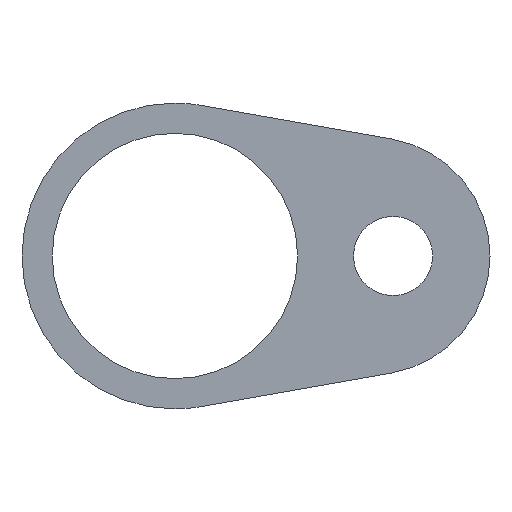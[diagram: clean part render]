
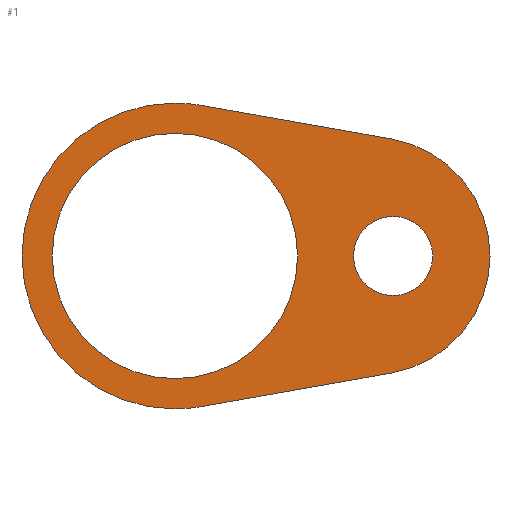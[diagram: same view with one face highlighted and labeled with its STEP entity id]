
A CAD part, front view. The second image highlights one B-rep face of the part: STEP entity #1.
In plain terms, the highlighted planar face has unit normal (0, -1, 0).
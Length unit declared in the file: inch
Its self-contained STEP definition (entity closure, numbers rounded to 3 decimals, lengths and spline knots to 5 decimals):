
#1 = ADVANCED_FACE ( 'NONE', ( #118, #112, #136 ), #238, .F. ) ;
#13 = ORIENTED_EDGE ( 'NONE', *, *, #187, .T. ) ;
#14 = ORIENTED_EDGE ( 'NONE', *, *, #186, .T. ) ;
#15 = ORIENTED_EDGE ( 'NONE', *, *, #173, .F. ) ;
#16 = ORIENTED_EDGE ( 'NONE', *, *, #197, .F. ) ;
#17 = ORIENTED_EDGE ( 'NONE', *, *, #174, .F. ) ;
#18 = ORIENTED_EDGE ( 'NONE', *, *, #178, .F. ) ;
#19 = ORIENTED_EDGE ( 'NONE', *, *, #172, .F. ) ;
#20 = ORIENTED_EDGE ( 'NONE', *, *, #177, .F. ) ;
#21 = ORIENTED_EDGE ( 'NONE', *, *, #185, .T. ) ;
#22 = ORIENTED_EDGE ( 'NONE', *, *, #182, .T. ) ;
#83 = CIRCLE ( 'NONE', #157, 0.785 ) ;
#86 = CIRCLE ( 'NONE', #205, 0.62992 ) ;
#88 = CIRCLE ( 'NONE', #202, 0.62992 ) ;
#89 = CIRCLE ( 'NONE', #156, 0.203 ) ;
#94 = CIRCLE ( 'NONE', #204, 0.203 ) ;
#95 = CIRCLE ( 'NONE', #201, 0.61 ) ;
#96 = CIRCLE ( 'NONE', #200, 0.785 ) ;
#105 = CIRCLE ( 'NONE', #154, 0.785 ) ;
#106 = LINE ( 'NONE', #254, #108 ) ;
#108 = VECTOR ( 'NONE', #263, 39.37008 ) ;
#112 = FACE_OUTER_BOUND ( 'NONE', #146, .T. ) ;
#118 = FACE_BOUND ( 'NONE', #153, .T. ) ;
#136 = FACE_BOUND ( 'NONE', #141, .T. ) ;
#141 = EDGE_LOOP ( 'NONE', ( #21, #22 ) ) ;
#146 = EDGE_LOOP ( 'NONE', ( #15, #16, #17, #18, #19, #20 ) ) ;
#149 = LINE ( 'NONE', #337, #223 ) ;
#153 = EDGE_LOOP ( 'NONE', ( #13, #14 ) ) ;
#154 = AXIS2_PLACEMENT_3D ( 'NONE', #259, #261, #262 ) ;
#156 = AXIS2_PLACEMENT_3D ( 'NONE', #345, #386, #389 ) ;
#157 = AXIS2_PLACEMENT_3D ( 'NONE', #317, #252, #248 ) ;
#167 = AXIS2_PLACEMENT_3D ( 'NONE', #234, #282, #283 ) ;
#172 = EDGE_CURVE ( 'NONE', #230, #246, #96, .T. ) ;
#173 = EDGE_CURVE ( 'NONE', #277, #250, #83, .T. ) ;
#174 = EDGE_CURVE ( 'NONE', #318, #295, #95, .T. ) ;
#177 = EDGE_CURVE ( 'NONE', #250, #230, #105, .T. ) ;
#178 = EDGE_CURVE ( 'NONE', #246, #318, #106, .T. ) ;
#182 = EDGE_CURVE ( 'NONE', #232, #235, #94, .T. ) ;
#185 = EDGE_CURVE ( 'NONE', #235, #232, #89, .T. ) ;
#186 = EDGE_CURVE ( 'NONE', #243, #231, #88, .T. ) ;
#187 = EDGE_CURVE ( 'NONE', #231, #243, #86, .T. ) ;
#197 = EDGE_CURVE ( 'NONE', #295, #277, #149, .T. ) ;
#200 = AXIS2_PLACEMENT_3D ( 'NONE', #303, #297, #296 ) ;
#201 = AXIS2_PLACEMENT_3D ( 'NONE', #251, #255, #253 ) ;
#202 = AXIS2_PLACEMENT_3D ( 'NONE', #373, #420, #354 ) ;
#204 = AXIS2_PLACEMENT_3D ( 'NONE', #266, #366, #376 ) ;
#205 = AXIS2_PLACEMENT_3D ( 'NONE', #358, #397, #364 ) ;
#223 = VECTOR ( 'NONE', #336, 39.37008 ) ;
#230 = VERTEX_POINT ( 'NONE', #333 ) ;
#231 = VERTEX_POINT ( 'NONE', #330 ) ;
#232 = VERTEX_POINT ( 'NONE', #332 ) ;
#234 = CARTESIAN_POINT ( 'NONE',  ( 0., 0., 0. ) ) ;
#235 = VERTEX_POINT ( 'NONE', #329 ) ;
#238 = PLANE ( 'NONE',  #167 ) ;
#243 = VERTEX_POINT ( 'NONE', #417 ) ;
#246 = VERTEX_POINT ( 'NONE', #415 ) ;
#248 = DIRECTION ( 'NONE',  ( 0., 0., 1. ) ) ;
#250 = VERTEX_POINT ( 'NONE', #413 ) ;
#251 = CARTESIAN_POINT ( 'NONE',  ( 1.00778, 0., 0. ) ) ;
#252 = DIRECTION ( 'NONE',  ( 0., 1., 0. ) ) ;
#253 = DIRECTION ( 'NONE',  ( 0., 0., 1. ) ) ;
#254 = CARTESIAN_POINT ( 'NONE',  ( 0.13631, 0., 0.77307 ) ) ;
#255 = DIRECTION ( 'NONE',  ( 0., 1., 0. ) ) ;
#259 = CARTESIAN_POINT ( 'NONE',  ( 0., 0., 0. ) ) ;
#261 = DIRECTION ( 'NONE',  ( 0., 1., 0. ) ) ;
#262 = DIRECTION ( 'NONE',  ( 0., 0., 1. ) ) ;
#263 = DIRECTION ( 'NONE',  ( 0.985, 0., -0.174 ) ) ;
#266 = CARTESIAN_POINT ( 'NONE',  ( 1.12, 0., 0. ) ) ;
#277 = VERTEX_POINT ( 'NONE', #411 ) ;
#282 = DIRECTION ( 'NONE',  ( 0., 1., 0. ) ) ;
#283 = DIRECTION ( 'NONE',  ( 0., 0., 1. ) ) ;
#295 = VERTEX_POINT ( 'NONE', #409 ) ;
#296 = DIRECTION ( 'NONE',  ( 0., 0., 1. ) ) ;
#297 = DIRECTION ( 'NONE',  ( 0., 1., 0. ) ) ;
#303 = CARTESIAN_POINT ( 'NONE',  ( 0., 0., 0. ) ) ;
#317 = CARTESIAN_POINT ( 'NONE',  ( 0., 0., 0. ) ) ;
#318 = VERTEX_POINT ( 'NONE', #408 ) ;
#329 = CARTESIAN_POINT ( 'NONE',  ( 1.12, 0., -0.203 ) ) ;
#330 = CARTESIAN_POINT ( 'NONE',  ( 0., 0., -0.62992 ) ) ;
#332 = CARTESIAN_POINT ( 'NONE',  ( 1.12, 0., 0.203 ) ) ;
#333 = CARTESIAN_POINT ( 'NONE',  ( 0., 0., 0.785 ) ) ;
#336 = DIRECTION ( 'NONE',  ( -0.985, 0., -0.174 ) ) ;
#337 = CARTESIAN_POINT ( 'NONE',  ( 0.13631, 0., -0.77307 ) ) ;
#345 = CARTESIAN_POINT ( 'NONE',  ( 1.12, 0., 0. ) ) ;
#354 = DIRECTION ( 'NONE',  ( 0., 0., 1. ) ) ;
#358 = CARTESIAN_POINT ( 'NONE',  ( 0., 0., 0. ) ) ;
#364 = DIRECTION ( 'NONE',  ( 0., 0., 1. ) ) ;
#366 = DIRECTION ( 'NONE',  ( 0., 1., 0. ) ) ;
#373 = CARTESIAN_POINT ( 'NONE',  ( 0., 0., 0. ) ) ;
#376 = DIRECTION ( 'NONE',  ( 0., 0., 1. ) ) ;
#386 = DIRECTION ( 'NONE',  ( 0., 1., 0. ) ) ;
#389 = DIRECTION ( 'NONE',  ( 0., 0., 1. ) ) ;
#397 = DIRECTION ( 'NONE',  ( 0., 1., 0. ) ) ;
#408 = CARTESIAN_POINT ( 'NONE',  ( 1.11371, 0., 0.60073 ) ) ;
#409 = CARTESIAN_POINT ( 'NONE',  ( 1.11371, 0., -0.60073 ) ) ;
#411 = CARTESIAN_POINT ( 'NONE',  ( 0.13631, 0., -0.77307 ) ) ;
#413 = CARTESIAN_POINT ( 'NONE',  ( 0., 0., -0.785 ) ) ;
#415 = CARTESIAN_POINT ( 'NONE',  ( 0.13631, 0., 0.77307 ) ) ;
#417 = CARTESIAN_POINT ( 'NONE',  ( 0., 0., 0.62992 ) ) ;
#420 = DIRECTION ( 'NONE',  ( 0., 1., 0. ) ) ;
